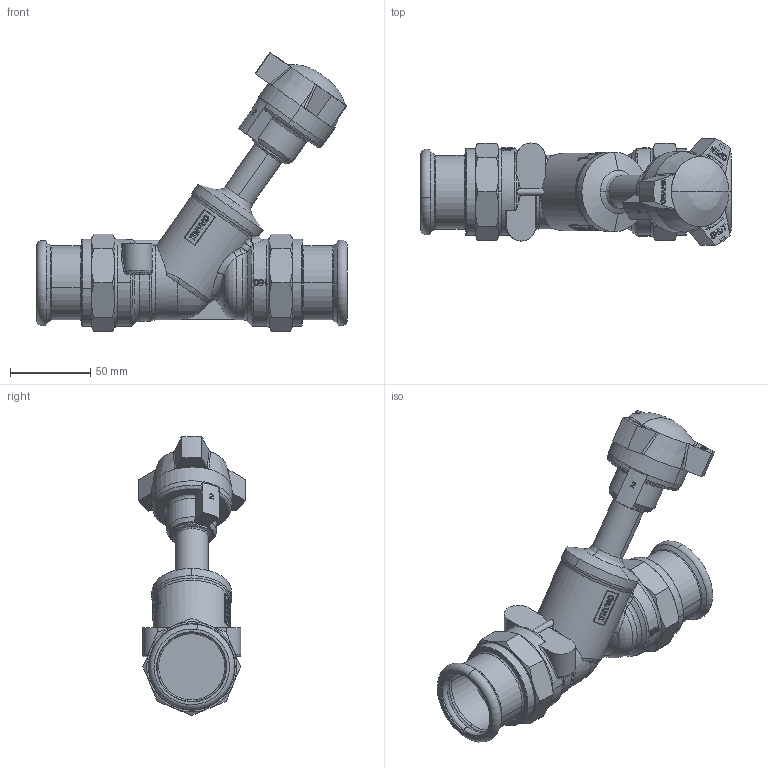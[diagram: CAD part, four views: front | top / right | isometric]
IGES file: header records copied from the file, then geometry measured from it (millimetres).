
Global section: file name: No Iges File Name specified; native system: AutoDesk Inventor R12.0; preprocessor: AutoDesk Inventor Iges Exporter R12.0; date: 20110824.085255; units: millimetre
Bounding box: 193.2 x 66.44 x 173.6 mm (x, y, z)
Volume: 427512.4 mm3; surface area: 76497.1 mm2
Topology: 1 solids, 3 shells, 882 faces, 2381 edges, 1552 vertices
Faces by surface type: bspline 387, plane 322, cylinder 65, cone 58, revolution 27, torus 21, sphere 2
